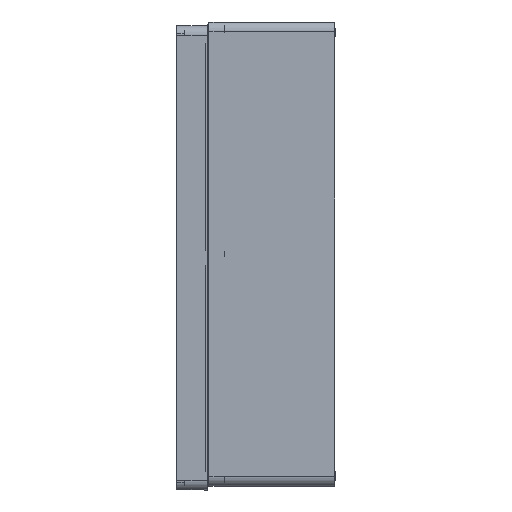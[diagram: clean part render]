
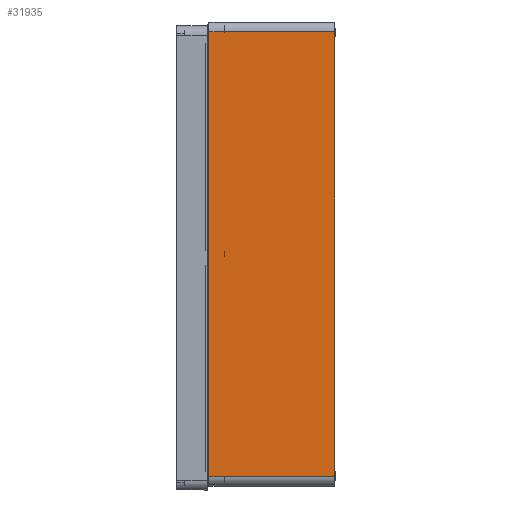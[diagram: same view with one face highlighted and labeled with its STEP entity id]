
A CAD part, left-side view. The second image highlights one B-rep face of the part: STEP entity #31935.
In plain terms, the highlighted planar face has unit normal (-1, 0, 0).
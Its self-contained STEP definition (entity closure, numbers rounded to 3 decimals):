
#80 = DIRECTION ( 'NONE',  ( 0., 0., 1. ) ) ;
#162 = VERTEX_POINT ( 'NONE', #9213 ) ;
#533 = ORIENTED_EDGE ( 'NONE', *, *, #1744, .F. ) ;
#551 = VERTEX_POINT ( 'NONE', #15107 ) ;
#1744 = EDGE_CURVE ( 'NONE', #551, #26446, #12956, .T. ) ;
#2360 = DIRECTION ( 'NONE',  ( 0., 0., -1. ) ) ;
#3633 = CARTESIAN_POINT ( 'NONE',  ( -300., 162.5, 287.5 ) ) ;
#3845 = CARTESIAN_POINT ( 'NONE',  ( -300., 162.5, -287.5 ) ) ;
#5166 = FACE_OUTER_BOUND ( 'NONE', #14750, .T. ) ;
#7144 = DIRECTION ( 'NONE',  ( 0., 0., 1. ) ) ;
#9213 = CARTESIAN_POINT ( 'NONE',  ( -300., 0., -287.5 ) ) ;
#10313 = CARTESIAN_POINT ( 'NONE',  ( -300., 162.5, -300. ) ) ;
#10458 = EDGE_CURVE ( 'NONE', #551, #162, #26484, .T. ) ;
#10581 = VECTOR ( 'NONE', #80, 1000. ) ;
#11469 = LINE ( 'NONE', #28702, #25611 ) ;
#12923 = PLANE ( 'NONE',  #22781 ) ;
#12956 = LINE ( 'NONE', #10313, #10581 ) ;
#13720 = EDGE_CURVE ( 'NONE', #20412, #26446, #11469, .T. ) ;
#13742 = DIRECTION ( 'NONE',  ( 0., -1., 0. ) ) ;
#14750 = EDGE_LOOP ( 'NONE', ( #22717, #23834, #533, #17051 ) ) ;
#15107 = CARTESIAN_POINT ( 'NONE',  ( -300., 162.5, -287.5 ) ) ;
#17051 = ORIENTED_EDGE ( 'NONE', *, *, #10458, .T. ) ;
#20412 = VERTEX_POINT ( 'NONE', #21345 ) ;
#20683 = CARTESIAN_POINT ( 'NONE',  ( -300., 162.5, -300. ) ) ;
#21345 = CARTESIAN_POINT ( 'NONE',  ( -300., 0., 287.5 ) ) ;
#22717 = ORIENTED_EDGE ( 'NONE', *, *, #24785, .T. ) ;
#22781 = AXIS2_PLACEMENT_3D ( 'NONE', #20683, #30794, #2360 ) ;
#23033 = VECTOR ( 'NONE', #7144, 1000. ) ;
#23834 = ORIENTED_EDGE ( 'NONE', *, *, #13720, .T. ) ;
#24420 = VECTOR ( 'NONE', #13742, 1000. ) ;
#24785 = EDGE_CURVE ( 'NONE', #162, #20412, #29455, .T. ) ;
#25611 = VECTOR ( 'NONE', #26712, 1000. ) ;
#26446 = VERTEX_POINT ( 'NONE', #3633 ) ;
#26484 = LINE ( 'NONE', #3845, #24420 ) ;
#26712 = DIRECTION ( 'NONE',  ( 0., 1., 0. ) ) ;
#28702 = CARTESIAN_POINT ( 'NONE',  ( -300., 162.5, 287.5 ) ) ;
#29455 = LINE ( 'NONE', #30118, #23033 ) ;
#30118 = CARTESIAN_POINT ( 'NONE',  ( -300., 0., -300. ) ) ;
#30794 = DIRECTION ( 'NONE',  ( 1., 0., 0. ) ) ;
#31935 = ADVANCED_FACE ( 'NONE', ( #5166 ), #12923, .F. ) ;
